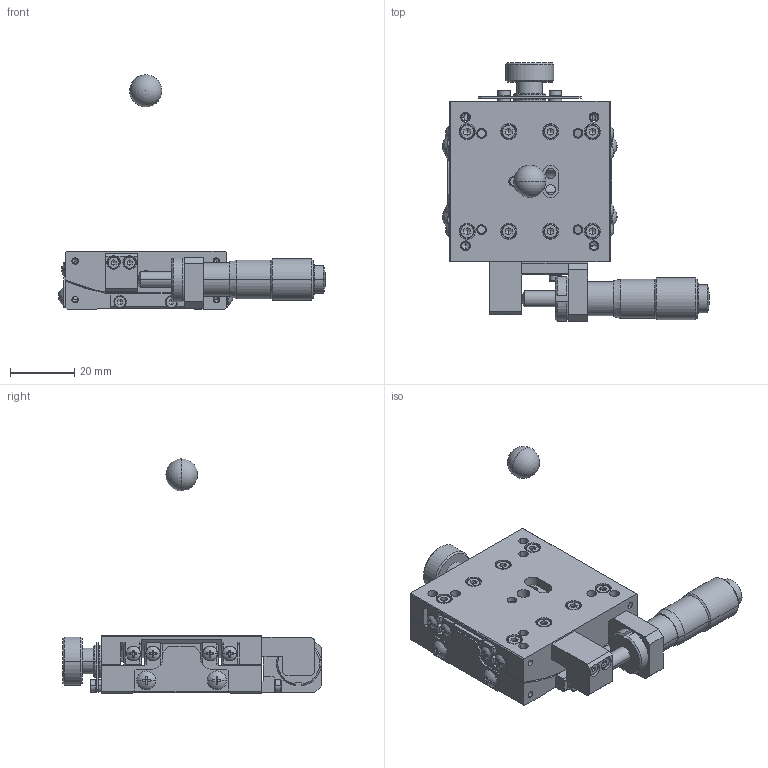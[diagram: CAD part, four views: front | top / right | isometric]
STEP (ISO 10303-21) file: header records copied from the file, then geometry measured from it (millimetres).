
FILE_DESCRIPTION (( 'STEP AP214' ), '1' );
FILE_NAME ('ST05A-S1T.STEP', '2007-01-19T00:21:13', ( ' ' ), ( ' ' ), 'SwSTEP 2.0', 'SolidWorks 2006052', '' );
FILE_SCHEMA (( 'AUTOMOTIVE_DESIGN' ));
Products named in the file (5): 002560-1020(3D); ST05A-S1T; ST05A-S1T-Part-1; MICROMETERHEAD(MHS4-13)spindle; 002560-1010(3D)
Assembly tree (4 placements, depth 2):
  ST05A-S1T
    002560-1010(3D)
    002560-1020(3D)
    ST05A-S1T-Part-1
    MICROMETERHEAD(MHS4-13)spindle
Bounding box: 83.18 x 80.5 x 73 mm (x, y, z)
Volume: 47045.2 mm3; surface area: 33308 mm2
Topology: 4 solids, 37 shells, 1787 faces, 4341 edges, 2595 vertices
Faces by surface type: plane 773, cylinder 581, cone 335, torus 68, sphere 30
Entity records: 55053 total; most frequent: CARTESIAN_POINT 13065, DIRECTION 9102, ORIENTED_EDGE 8468, EDGE_CURVE 4234, AXIS2_PLACEMENT_3D 3514, VERTEX_POINT 2592, VECTOR 2074, LINE 2074
